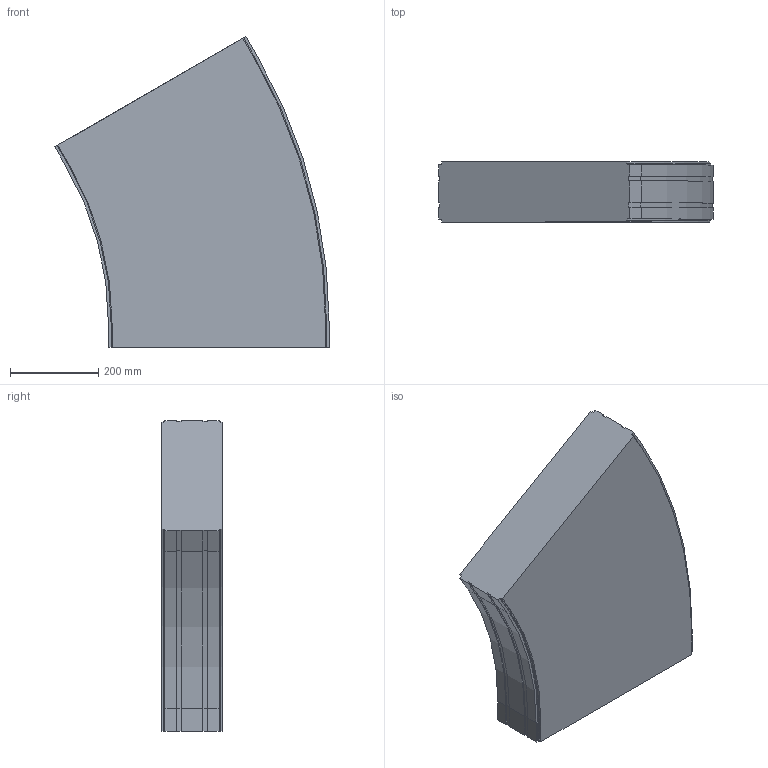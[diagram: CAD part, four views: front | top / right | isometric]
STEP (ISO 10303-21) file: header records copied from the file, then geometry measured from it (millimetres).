
FILE_DESCRIPTION (( 'STEP AP214' ), '1' );
FILE_NAME ('FS-MTC2-150-INOX horizontaalbocht.500 30°.STEP', '2017-02-08T12:40:38', ( '' ), ( '' ), 'SwSTEP 2.0', 'SolidWorks 2016', '' );
FILE_SCHEMA (( 'AUTOMOTIVE_DESIGN' ));
Length unit declared in the file: millimetre
Products named in the file (1): FS-MTC2-150-INOX horizontaalbocht.500 30°
Bounding box: 620.44 x 136.5 x 702.72 mm (x, y, z)
Volume: 41202217.7 mm3; surface area: 920093 mm2
Topology: 1 solids, 1 shells, 74 faces, 216 edges, 144 vertices
Faces by surface type: plane 56, cylinder 18
Entity records: 2470 total; most frequent: CARTESIAN_POINT 435, ORIENTED_EDGE 432, DIRECTION 402, EDGE_CURVE 216, VECTOR 180, LINE 180, VERTEX_POINT 144, AXIS2_PLACEMENT_3D 111
